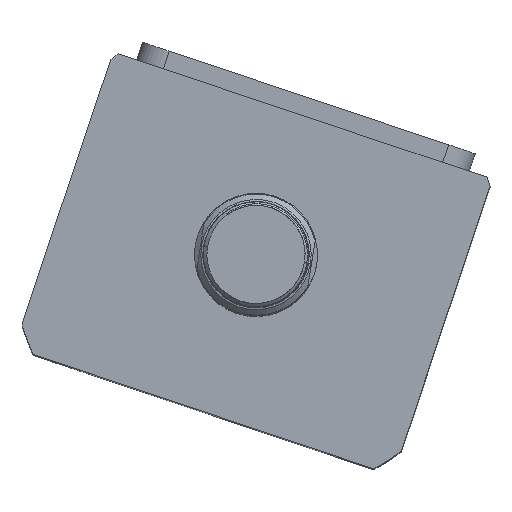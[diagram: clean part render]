
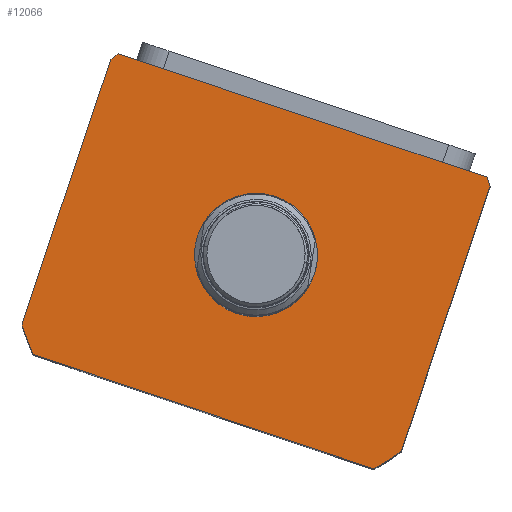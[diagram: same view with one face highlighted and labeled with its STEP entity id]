
A CAD part, top view. The second image highlights one B-rep face of the part: STEP entity #12066.
In plain terms, the highlighted planar face has unit normal (0, 0, 1) as drawn and (0, 0, -1) by its records, which use the part's own axes.
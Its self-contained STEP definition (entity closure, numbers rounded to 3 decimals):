
#306 = CARTESIAN_POINT ( 'NONE',  ( 17.5, 2.5, 0. ) ) ;
#769 = DIRECTION ( 'NONE',  ( 0., 0., 1. ) ) ;
#796 = DIRECTION ( 'NONE',  ( 1., 0., 0. ) ) ;
#823 = EDGE_CURVE ( 'NONE', #13352, #2200, #4040, .T. ) ;
#1004 = EDGE_CURVE ( 'NONE', #20402, #11582, #24426, .T. ) ;
#1015 = CARTESIAN_POINT ( 'NONE',  ( 0., 2.5, 0. ) ) ;
#1529 = ORIENTED_EDGE ( 'NONE', *, *, #13843, .F. ) ;
#1756 = AXIS2_PLACEMENT_3D ( 'NONE', #16274, #5441, #20641 ) ;
#1839 = ORIENTED_EDGE ( 'NONE', *, *, #7385, .F. ) ;
#1912 = DIRECTION ( 'NONE',  ( 1., 0., 0. ) ) ;
#2013 = CARTESIAN_POINT ( 'NONE',  ( -57., -44.5, 0. ) ) ;
#2173 = ORIENTED_EDGE ( 'NONE', *, *, #1004, .T. ) ;
#2200 = VERTEX_POINT ( 'NONE', #24108 ) ;
#2226 = VERTEX_POINT ( 'NONE', #17376 ) ;
#2431 = CARTESIAN_POINT ( 'NONE',  ( -57., 44.5, 0. ) ) ;
#2445 = CARTESIAN_POINT ( 'NONE',  ( -51.198, -44.5, 0. ) ) ;
#2871 = VERTEX_POINT ( 'NONE', #2445 ) ;
#3191 = DIRECTION ( 'NONE',  ( 1., 0., 0. ) ) ;
#3947 = EDGE_CURVE ( 'NONE', #11582, #20402, #18725, .T. ) ;
#4040 = LINE ( 'NONE', #27208, #26464 ) ;
#4502 = AXIS2_PLACEMENT_3D ( 'NONE', #26837, #13848, #796 ) ;
#5441 = DIRECTION ( 'NONE',  ( 0., 0., 1. ) ) ;
#5592 = CARTESIAN_POINT ( 'NONE',  ( -17.5, 2.5, 0. ) ) ;
#5872 = CARTESIAN_POINT ( 'NONE',  ( 0., 2.5, 0. ) ) ;
#6060 = CIRCLE ( 'NONE', #20334, 69.5 ) ;
#6408 = EDGE_LOOP ( 'NONE', ( #17149, #1839, #9005, #27669, #1529, #9376, #28016, #19134 ) ) ;
#6552 = CARTESIAN_POINT ( 'NONE',  ( 57., 42.265, 0. ) ) ;
#6816 = DIRECTION ( 'NONE',  ( -1., 0., 0. ) ) ;
#7070 = FACE_OUTER_BOUND ( 'NONE', #6408, .T. ) ;
#7125 = AXIS2_PLACEMENT_3D ( 'NONE', #18119, #18028, #17825 ) ;
#7365 = VERTEX_POINT ( 'NONE', #11836 ) ;
#7385 = EDGE_CURVE ( 'NONE', #14506, #27007, #19672, .T. ) ;
#7745 = CIRCLE ( 'NONE', #16925, 69.5 ) ;
#8065 = DIRECTION ( 'NONE',  ( 1., 0., 0. ) ) ;
#8387 = VERTEX_POINT ( 'NONE', #16007 ) ;
#9005 = ORIENTED_EDGE ( 'NONE', *, *, #16326, .F. ) ;
#9376 = ORIENTED_EDGE ( 'NONE', *, *, #823, .F. ) ;
#9998 = CARTESIAN_POINT ( 'NONE',  ( 0., 2.5, 0. ) ) ;
#10710 = LINE ( 'NONE', #2431, #17845 ) ;
#11582 = VERTEX_POINT ( 'NONE', #5592 ) ;
#11619 = EDGE_CURVE ( 'NONE', #27007, #8387, #6060, .T. ) ;
#11836 = CARTESIAN_POINT ( 'NONE',  ( -55.374, 44.5, 0. ) ) ;
#12066 = ADVANCED_FACE ( 'NONE', ( #12879, #7070 ), #14098, .F. ) ;
#12220 = DIRECTION ( 'NONE',  ( 1., 0., 0. ) ) ;
#12732 = CARTESIAN_POINT ( 'NONE',  ( -57., 42.265, 0. ) ) ;
#12879 = FACE_BOUND ( 'NONE', #15996, .T. ) ;
#13247 = VECTOR ( 'NONE', #14004, 1000. ) ;
#13352 = VERTEX_POINT ( 'NONE', #12732 ) ;
#13813 = CARTESIAN_POINT ( 'NONE',  ( 0., 2.5, 0. ) ) ;
#13843 = EDGE_CURVE ( 'NONE', #2200, #2871, #16632, .T. ) ;
#13848 = DIRECTION ( 'NONE',  ( 0., 0., 1. ) ) ;
#14004 = DIRECTION ( 'NONE',  ( 0., 1., 0. ) ) ;
#14098 = PLANE ( 'NONE',  #1756 ) ;
#14303 = EDGE_CURVE ( 'NONE', #2871, #2226, #24772, .T. ) ;
#14506 = VERTEX_POINT ( 'NONE', #17494 ) ;
#15109 = ORIENTED_EDGE ( 'NONE', *, *, #3947, .T. ) ;
#15990 = DIRECTION ( 'NONE',  ( 1., 0., 0. ) ) ;
#15996 = EDGE_LOOP ( 'NONE', ( #2173, #15109 ) ) ;
#16007 = CARTESIAN_POINT ( 'NONE',  ( 55.374, 44.5, 0. ) ) ;
#16222 = DIRECTION ( 'NONE',  ( 0., 0., 1. ) ) ;
#16274 = CARTESIAN_POINT ( 'NONE',  ( 0., 0., 0. ) ) ;
#16326 = EDGE_CURVE ( 'NONE', #2226, #14506, #7745, .T. ) ;
#16406 = AXIS2_PLACEMENT_3D ( 'NONE', #1015, #16222, #3191 ) ;
#16632 = CIRCLE ( 'NONE', #4502, 69.5 ) ;
#16925 = AXIS2_PLACEMENT_3D ( 'NONE', #9998, #25177, #12220 ) ;
#17149 = ORIENTED_EDGE ( 'NONE', *, *, #11619, .F. ) ;
#17376 = CARTESIAN_POINT ( 'NONE',  ( 51.198, -44.5, 0. ) ) ;
#17494 = CARTESIAN_POINT ( 'NONE',  ( 57., -37.265, 0. ) ) ;
#17825 = DIRECTION ( 'NONE',  ( 1., 0., 0. ) ) ;
#17845 = VECTOR ( 'NONE', #6816, 1000. ) ;
#18028 = DIRECTION ( 'NONE',  ( 0., 0., 1. ) ) ;
#18119 = CARTESIAN_POINT ( 'NONE',  ( 0., 2.5, 0. ) ) ;
#18725 = CIRCLE ( 'NONE', #16406, 17.5 ) ;
#19134 = ORIENTED_EDGE ( 'NONE', *, *, #20811, .F. ) ;
#19672 = LINE ( 'NONE', #20523, #13247 ) ;
#20334 = AXIS2_PLACEMENT_3D ( 'NONE', #5872, #21079, #8065 ) ;
#20365 = VECTOR ( 'NONE', #1912, 1000. ) ;
#20402 = VERTEX_POINT ( 'NONE', #306 ) ;
#20523 = CARTESIAN_POINT ( 'NONE',  ( 57., 44.5, 0. ) ) ;
#20641 = DIRECTION ( 'NONE',  ( 1., 0., 0. ) ) ;
#20811 = EDGE_CURVE ( 'NONE', #8387, #7365, #10710, .T. ) ;
#21079 = DIRECTION ( 'NONE',  ( 0., 0., 1. ) ) ;
#22096 = DIRECTION ( 'NONE',  ( 0., -1., 0. ) ) ;
#22921 = EDGE_CURVE ( 'NONE', #7365, #13352, #27104, .T. ) ;
#23689 = AXIS2_PLACEMENT_3D ( 'NONE', #13813, #769, #15990 ) ;
#24108 = CARTESIAN_POINT ( 'NONE',  ( -57., -37.265, 0. ) ) ;
#24426 = CIRCLE ( 'NONE', #7125, 17.5 ) ;
#24772 = LINE ( 'NONE', #2013, #20365 ) ;
#25177 = DIRECTION ( 'NONE',  ( 0., 0., 1. ) ) ;
#26464 = VECTOR ( 'NONE', #22096, 1000. ) ;
#26837 = CARTESIAN_POINT ( 'NONE',  ( 0., 2.5, 0. ) ) ;
#27007 = VERTEX_POINT ( 'NONE', #6552 ) ;
#27104 = CIRCLE ( 'NONE', #23689, 69.5 ) ;
#27208 = CARTESIAN_POINT ( 'NONE',  ( -57., 44.5, 0. ) ) ;
#27669 = ORIENTED_EDGE ( 'NONE', *, *, #14303, .F. ) ;
#28016 = ORIENTED_EDGE ( 'NONE', *, *, #22921, .F. ) ;
